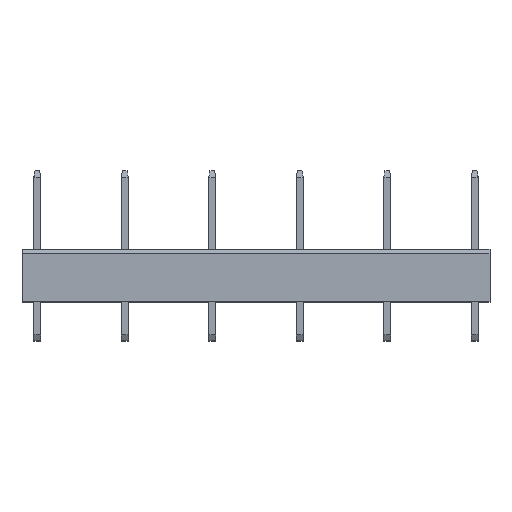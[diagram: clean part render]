
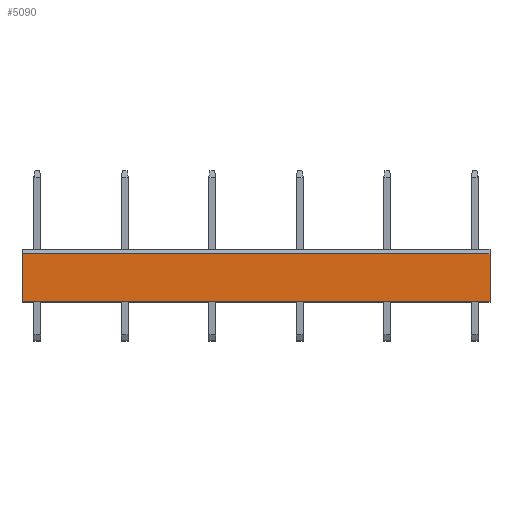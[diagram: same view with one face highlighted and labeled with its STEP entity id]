
A CAD part, top view. The second image highlights one B-rep face of the part: STEP entity #5090.
In plain terms, the highlighted planar face has unit normal (0, 0, 1).
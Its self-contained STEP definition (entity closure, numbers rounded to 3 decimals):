
#2412 = VERTEX_POINT ( 'NONE', #22006 ) ;
#3786 = VERTEX_POINT ( 'NONE', #24386 ) ;
#4969 = VERTEX_POINT ( 'NONE', #26439 ) ;
#5088 = EDGE_CURVE ( 'NONE', #4969, #2412, #26564, .T. ) ;
#5090 = ADVANCED_FACE ( 'NONE', ( #26560 ), #26559, .F. ) ;
#5094 = EDGE_LOOP ( 'NONE', ( #5097, #5098, #5099, #5102 ) ) ;
#5097 = ORIENTED_EDGE ( 'NONE', *, *, #12336, .F. ) ;
#5098 = ORIENTED_EDGE ( 'NONE', *, *, #5088, .F. ) ;
#5099 = ORIENTED_EDGE ( 'NONE', *, *, #5100, .T. ) ;
#5100 = EDGE_CURVE ( 'NONE', #4969, #5101, #26620, .T. ) ;
#5101 = VERTEX_POINT ( 'NONE', #26616 ) ;
#5102 = ORIENTED_EDGE ( 'NONE', *, *, #5103, .T. ) ;
#5103 = EDGE_CURVE ( 'NONE', #5101, #3786, #26615, .T. ) ;
#12336 = EDGE_CURVE ( 'NONE', #2412, #3786, #14000, .T. ) ;
#13996 = DIRECTION ( 'NONE',  ( 0., 1., 0. ) ) ;
#13997 = VECTOR ( 'NONE', #13996, 1000. ) ;
#13999 = CARTESIAN_POINT ( 'NONE',  ( 56.5, 2.75, 0. ) ) ;
#14000 = LINE ( 'NONE', #13999, #13997 ) ;
#22006 = CARTESIAN_POINT ( 'NONE',  ( 56.5, 0., 0. ) ) ;
#24386 = CARTESIAN_POINT ( 'NONE',  ( 56.5, 5.5, 0. ) ) ;
#26439 = CARTESIAN_POINT ( 'NONE',  ( 110., 0., 0. ) ) ;
#26555 = DIRECTION ( 'NONE',  ( -1., 0., 0. ) ) ;
#26556 = DIRECTION ( 'NONE',  ( 0., 0., -1. ) ) ;
#26557 = CARTESIAN_POINT ( 'NONE',  ( 110., 0., 0. ) ) ;
#26558 = AXIS2_PLACEMENT_3D ( 'NONE', #26557, #26556, #26555 ) ;
#26559 = PLANE ( 'NONE',  #26558 ) ;
#26560 = FACE_OUTER_BOUND ( 'NONE', #5094, .T. ) ;
#26561 = DIRECTION ( 'NONE',  ( -1., 0., 0. ) ) ;
#26562 = VECTOR ( 'NONE', #26561, 1000. ) ;
#26563 = CARTESIAN_POINT ( 'NONE',  ( 110., 0., 0. ) ) ;
#26564 = LINE ( 'NONE', #26563, #26562 ) ;
#26612 = DIRECTION ( 'NONE',  ( -1., 0., 0. ) ) ;
#26613 = VECTOR ( 'NONE', #26612, 1000. ) ;
#26614 = CARTESIAN_POINT ( 'NONE',  ( 83.25, 5.5, 0. ) ) ;
#26615 = LINE ( 'NONE', #26614, #26613 ) ;
#26616 = CARTESIAN_POINT ( 'NONE',  ( 110., 5.5, 0. ) ) ;
#26617 = DIRECTION ( 'NONE',  ( 0., 1., 0. ) ) ;
#26618 = VECTOR ( 'NONE', #26617, 1000. ) ;
#26619 = CARTESIAN_POINT ( 'NONE',  ( 110., 3., 0. ) ) ;
#26620 = LINE ( 'NONE', #26619, #26618 ) ;
